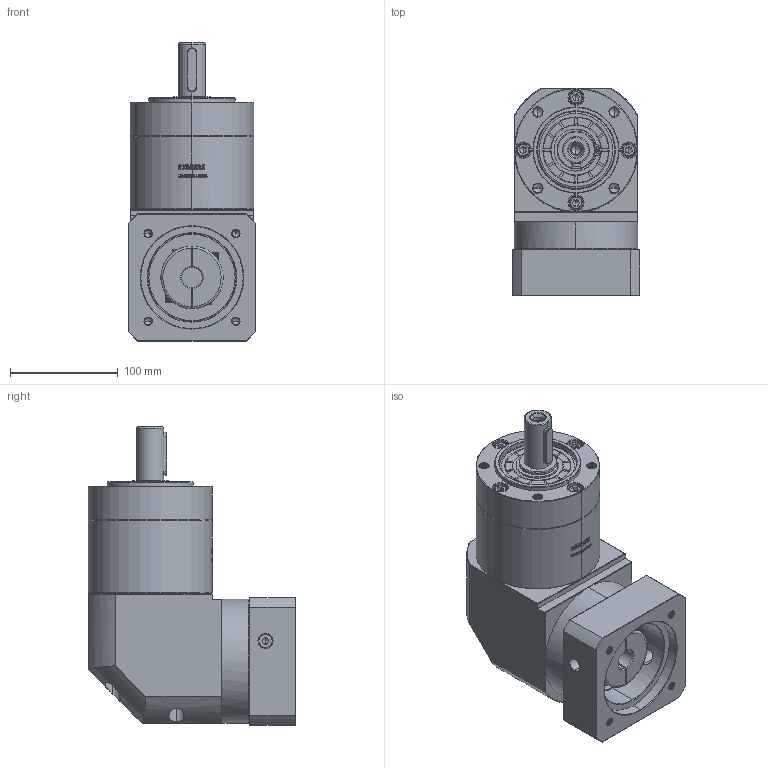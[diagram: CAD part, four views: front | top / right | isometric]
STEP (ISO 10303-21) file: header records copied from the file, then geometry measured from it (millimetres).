
FILE_DESCRIPTION (( 'STEP AP214' ), '1' );
FILE_NAME ('ZER120A-D25-L2-19-95-115-M8.step', '2023-03-14T08:16:07', ( '' ), ( '' ), 'SwSTEP 2.0', 'SolidWorks 2016', '' );
FILE_SCHEMA (( 'AUTOMOTIVE_DESIGN' ));
Length unit declared in the file: millimetre
Products named in the file (1): ZER120A-D25-L2-19-95-115-M8
Bounding box: 118 x 192.4 x 276.5 mm (x, y, z)
Volume: 3134689.8 mm3; surface area: 249258.7 mm2
Topology: 6 solids, 6 shells, 2953 faces, 7937 edges, 5128 vertices
Faces by surface type: plane 1463, bspline 618, cylinder 532, cone 332, torus 8
Entity records: 169311 total; most frequent: CARTESIAN_POINT 69500, ORIENTED_EDGE 15798, DIRECTION 11271, EDGE_CURVE 7899, VERTEX_POINT 5128, VECTOR 4801, LINE 4801, AXIS2_PLACEMENT_3D 3235
